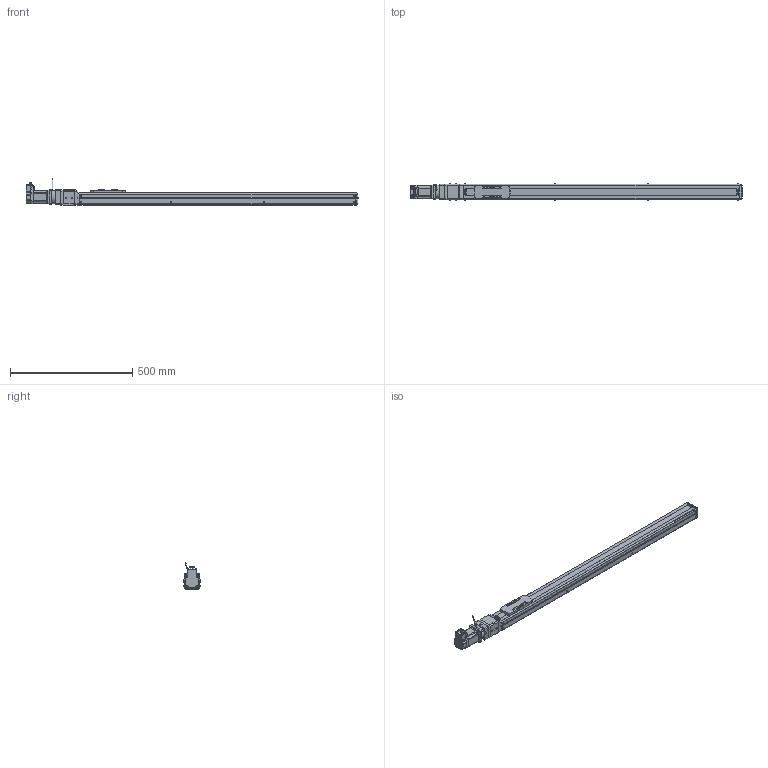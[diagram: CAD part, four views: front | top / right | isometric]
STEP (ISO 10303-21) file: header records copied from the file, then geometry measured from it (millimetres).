
FILE_DESCRIPTION(('FreeCAD Model'),'2;1');
FILE_NAME('Open CASCADE Shape Model','2023-08-03T16:26:24',('Author'),( ''),'Open CASCADE STEP processor 7.5','FreeCAD','Unknown');
FILE_SCHEMA(('AUTOMOTIVE_DESIGN { 1 0 10303 214 1 1 1 1 }'));
Length unit declared in the file: millimetre
Products named in the file (21): RMJ1211_BRK; Shapes; Shapes001; Shapes002; Shapes003; Shapes004; Shapes005; Shapes006; Shapes007; Shapes008; Shapes009; Shapes010; Shapes011; Shapes012; Body; BXW-03-10H-8_STEP; Body001; KSF6-20-0900-0-A0(0); KSF6---(Cover); KSF6-10-0900---(slider); KSF6-20-0900-A0 (0900A0No0)---(body)
Assembly tree (20 placements, depth 3):
  RMJ1211_BRK
    Shapes
    Shapes001
    Shapes002
    Shapes003
    Shapes004
    Shapes005
    Shapes006
    Shapes007
    Shapes008
    Shapes009
    Shapes010
    Shapes011
    Shapes012
    Body
    BXW-03-10H-8_STEP
    Body001
    KSF6-20-0900-0-A0(0)
      KSF6---(Cover)
      KSF6-10-0900---(slider)
      KSF6-20-0900-A0 (0900A0No0)---(body)
Bounding box: 1360.47 x 66.4 x 107.78 mm (x, y, z)
Volume: 4203259.5 mm3; surface area: 467812 mm2
Topology: 19 solids, 19 shells, 1906 faces, 5058 edges, 3317 vertices
Faces by surface type: plane 1259, cylinder 497, cone 91, bspline 28, torus 27, revolution 4
Full cylindrical faces by diameter (mm): 2.113 x8, 2.6 x4, 3 x5, 3.242 x5, 4.134 x4, 4.2 x7, 4.3 x1, 4.5 x2, 5 x1, 5.5 x18, 6.5 x4, 7.5 x4, 9 x1, 9.5 x12, 12 x1, 15.5 x1, 17 x1, 38.1 x1, 38.2 x1, 44 x1, 50 x2, 56.2 x1
Entity records: 135801 total; most frequent: CARTESIAN_POINT 31558, DIRECTION 19221, LINE 12456, VECTOR 12456, ORIENTED_EDGE 10068, PCURVE 10068, DEFINITIONAL_REPRESENTATION 10068, EDGE_CURVE 5034
